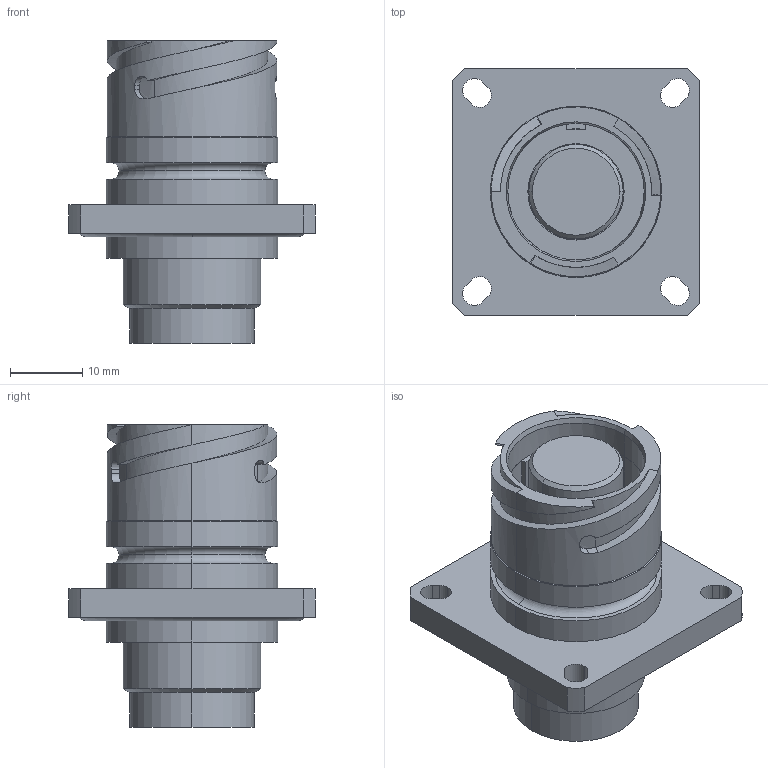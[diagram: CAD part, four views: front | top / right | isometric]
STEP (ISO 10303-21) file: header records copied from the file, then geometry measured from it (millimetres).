
FILE_DESCRIPTION (( 'STEP AP214' ), '1' );
FILE_NAME ('QLINK-RFBX-13XX-S00-RA.STEP', '2025-12-16T15:54:30', ( '' ), ( '' ), 'SwSTEP 2.0', 'SolidWorks 2024', '' );
FILE_SCHEMA (( 'AUTOMOTIVE_DESIGN' ));
Length unit declared in the file: millimetre
Products named in the file (1): QLINK-RFBX-13XX-S00-RA
Bounding box: 34.16 x 34.16 x 41.91 mm (x, y, z)
Volume: 15266.4 mm3; surface area: 8831.6 mm2
Topology: 2 solids, 2 shells, 153 faces, 373 edges, 235 vertices
Faces by surface type: cylinder 68, plane 45, torus 18, bspline 12, cone 10
Entity records: 6191 total; most frequent: CARTESIAN_POINT 2551, DIRECTION 780, ORIENTED_EDGE 746, EDGE_CURVE 373, AXIS2_PLACEMENT_3D 318, VERTEX_POINT 235, CIRCLE 176, EDGE_LOOP 176
